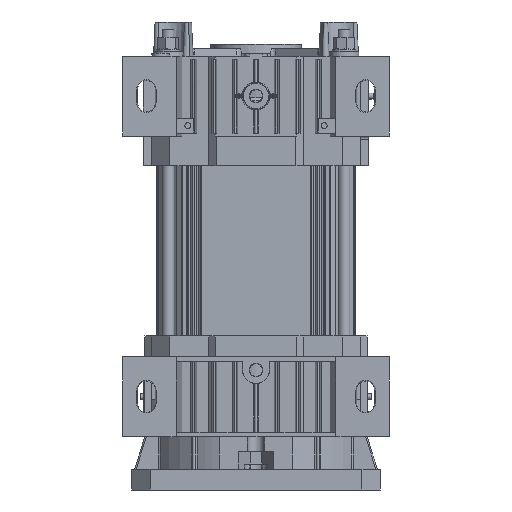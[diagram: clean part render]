
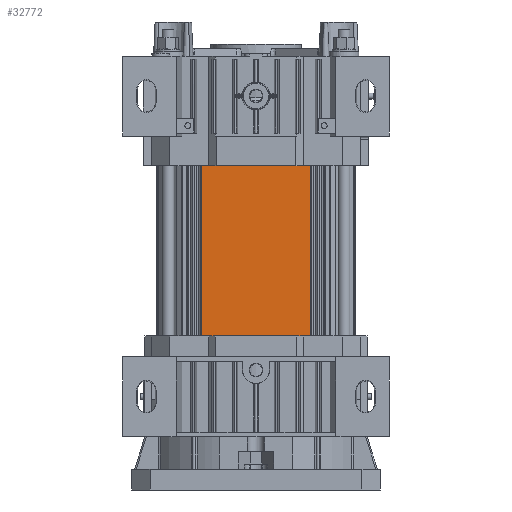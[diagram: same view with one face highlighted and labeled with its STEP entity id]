
A CAD part, front view. The second image highlights one B-rep face of the part: STEP entity #32772.
In plain terms, the highlighted planar face has unit normal (0, -1, 0).
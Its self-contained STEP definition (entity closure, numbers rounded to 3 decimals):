
#3594=LINE('',#57896,#6556);
#3830=LINE('',#58639,#6792);
#3831=LINE('',#58642,#6793);
#3832=LINE('',#58643,#6794);
#6556=VECTOR('',#44779,10.);
#6792=VECTOR('',#45533,10.);
#6793=VECTOR('',#45538,10.);
#6794=VECTOR('',#45539,10.);
#7785=PLANE('',#36113);
#9717=FACE_OUTER_BOUND('',#11658,.T.);
#11658=EDGE_LOOP('',(#30254,#30255,#30256,#30257));
#15998=VERTEX_POINT('',#57889);
#16001=VERTEX_POINT('',#57894);
#16248=VERTEX_POINT('',#58636);
#16249=VERTEX_POINT('',#58638);
#20639=EDGE_CURVE('',#16001,#15998,#3594,.T.);
#21010=EDGE_CURVE('',#16249,#16248,#3830,.T.);
#21012=EDGE_CURVE('',#16248,#15998,#3831,.T.);
#21013=EDGE_CURVE('',#16001,#16249,#3832,.T.);
#30254=ORIENTED_EDGE('',*,*,#21012,.T.);
#30255=ORIENTED_EDGE('',*,*,#20639,.F.);
#30256=ORIENTED_EDGE('',*,*,#21013,.T.);
#30257=ORIENTED_EDGE('',*,*,#21010,.T.);
#32772=ADVANCED_FACE('',(#9717),#7785,.T.);
#36113=AXIS2_PLACEMENT_3D('',#58641,#45536,#45537);
#44779=DIRECTION('',(0.,0.,1.));
#45533=DIRECTION('',(0.,0.,1.));
#45536=DIRECTION('center_axis',(0.,-1.,0.));
#45537=DIRECTION('ref_axis',(0.,0.,-1.));
#45538=DIRECTION('',(-1.,0.,0.));
#45539=DIRECTION('',(1.,0.,0.));
#57889=CARTESIAN_POINT('',(6506.45,-1976.3,125.));
#57894=CARTESIAN_POINT('',(6506.45,-1976.3,0.));
#57896=CARTESIAN_POINT('',(6506.45,-1976.3,0.));
#58636=CARTESIAN_POINT('',(6580.572,-1976.3,125.));
#58638=CARTESIAN_POINT('',(6580.572,-1976.3,0.));
#58639=CARTESIAN_POINT('',(6580.572,-1976.3,0.));
#58641=CARTESIAN_POINT('Origin',(6580.572,-1976.3,0.));
#58642=CARTESIAN_POINT('',(6506.45,-1976.3,125.));
#58643=CARTESIAN_POINT('',(6506.45,-1976.3,0.));
